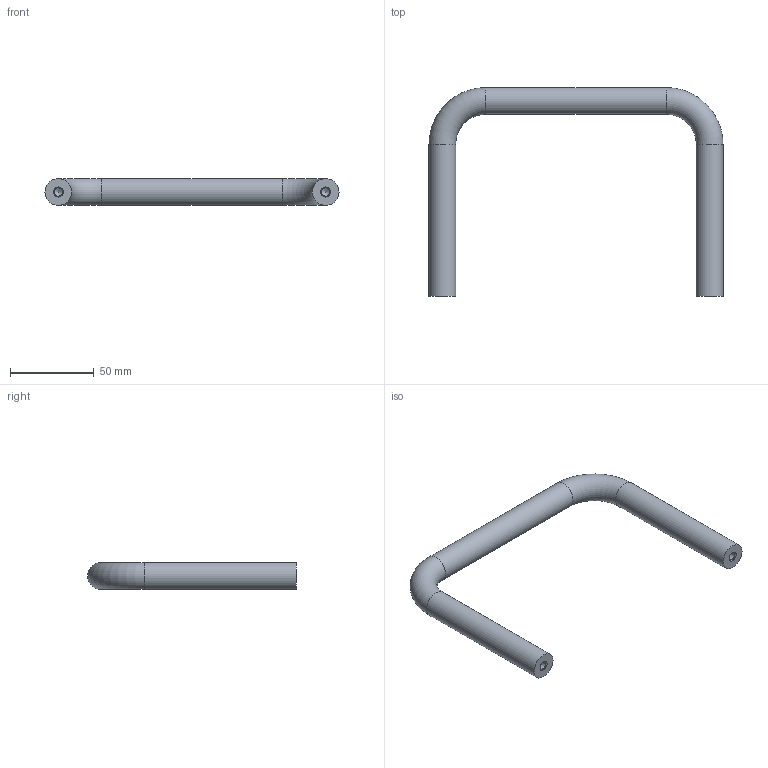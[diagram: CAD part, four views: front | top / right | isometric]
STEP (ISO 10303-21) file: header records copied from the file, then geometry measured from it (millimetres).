
FILE_DESCRIPTION(/* description */ ('STEP AP214'),/* implementation_level */ '2;1');
FILE_NAME(/* name */ 'Cabinet U-Handle_ Stainless Steel GN 435-NI-16-160-125-GS',/* time_stamp */ '2023-12-06T14:21:00+01:00',/* author */ ('License CC BY-ND 4.0'),/* organization */ ('CADENAS'),/* preprocessor_version */ 'ST-DEVELOPER v19.3',/* originating_system */ 'PARTsolutions',/* authorisation */ ' ');
FILE_SCHEMA (('AUTOMOTIVE_DESIGN {1 0 10303 214 3 1 1}'));
Length unit declared in the file: millimetre
Products named in the file (1): Cabinet U-Handle, Stainless Steel GN 435-NI-16-160-125-GS
Bounding box: 176 x 125 x 16 mm (x, y, z)
Volume: 74099.8 mm3; surface area: 19576.5 mm2
Topology: 1 solids, 1 shells, 13 faces, 30 edges, 19 vertices
Faces by surface type: cylinder 5, cone 4, plane 2, torus 2
Full cylindrical faces by diameter (mm): 4.917 x2, 16 x3
Entity records: 292 total; most frequent: DIRECTION 52, CARTESIAN_POINT 40, FACE_BOUND 26, AXIS2_PLACEMENT_3D 26, ORIENTED_EDGE 24, EDGE_LOOP 24, VERTEX_POINT 14, ADVANCED_FACE 13
